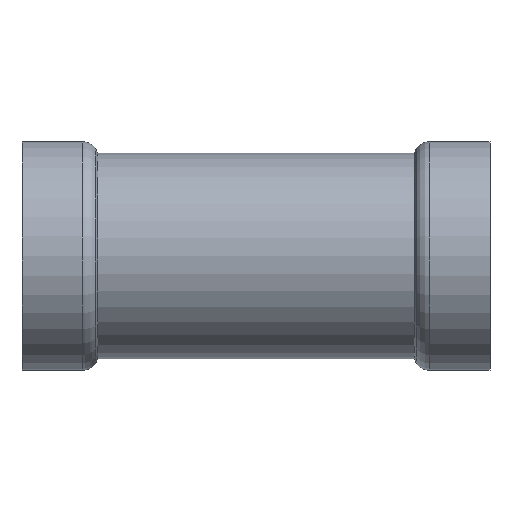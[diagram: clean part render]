
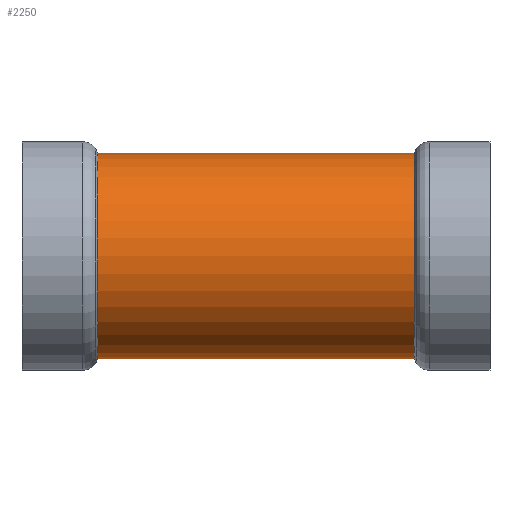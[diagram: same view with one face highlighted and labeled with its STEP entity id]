
A CAD part, top view. The second image highlights one B-rep face of the part: STEP entity #2250.
In plain terms, the highlighted cylindrical face has radius 27.85 mm (diameter 55.7 mm), a partial arc.
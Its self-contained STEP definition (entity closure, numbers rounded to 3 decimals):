
#940=CARTESIAN_POINT('',(153.421,36.979,0.
));
#950=VERTEX_POINT('',#940);
#1130=CARTESIAN_POINT('',(153.421,92.679,
0.));
#1140=VERTEX_POINT('',#1130);
#1170=CARTESIAN_POINT('',(153.421,64.829,
0.));
#1180=DIRECTION('',(-1.,0.,-0.));
#1190=DIRECTION('',(0.,-1.,0.));
#1200=AXIS2_PLACEMENT_3D('',#1170,#1180,#1190);
#1210=CIRCLE('',#1200,27.85);
#1730=CARTESIAN_POINT('',(153.309,36.979,
0.));
#1740=DIRECTION('',(1.,0.,0.));
#1750=VECTOR('',#1740,1.);
#1760=LINE('',#1730,#1750);
#1770=CARTESIAN_POINT('',(67.621,36.979,
0.));
#1780=VERTEX_POINT('',#1770);
#1790=EDGE_CURVE('',#1780,#950,#1760,.T.);
#1820=CARTESIAN_POINT('',(153.309,92.679,
0.));
#1830=DIRECTION('',(1.,0.,0.));
#1840=VECTOR('',#1830,1.);
#1850=LINE('',#1820,#1840);
#1860=CARTESIAN_POINT('',(67.621,92.679,
0.));
#1870=VERTEX_POINT('',#1860);
#1880=EDGE_CURVE('',#1870,#1140,#1850,.T.);
#1900=CARTESIAN_POINT('',(67.621,64.829,
0.));
#1910=DIRECTION('',(-1.,0.,0.));
#1920=DIRECTION('',(0.,-1.,0.));
#1930=AXIS2_PLACEMENT_3D('',#1900,#1910,#1920);
#1940=CIRCLE('',#1930,27.85);
#2050=EDGE_CURVE('',#950,#1140,#1210,.T.);
#2130=CARTESIAN_POINT('',(153.309,64.829,
0.));
#2140=DIRECTION('',(1.,0.,0.));
#2150=DIRECTION('',(0.,-1.,0.));
#2160=AXIS2_PLACEMENT_3D('',#2130,#2140,#2150);
#2170=CYLINDRICAL_SURFACE('',#2160,27.85);
#2180=EDGE_CURVE('',#1780,#1870,#1940,.T.);
#2190=ORIENTED_EDGE('',*,*,#2180,.F.);
#2200=ORIENTED_EDGE('',*,*,#1880,.F.);
#2210=ORIENTED_EDGE('',*,*,#2050,.T.);
#2220=ORIENTED_EDGE('',*,*,#1790,.T.);
#2230=EDGE_LOOP('',(#2220,#2210,#2200,#2190));
#2240=FACE_OUTER_BOUND('',#2230,.T.);
#2250=ADVANCED_FACE('',(#2240),#2170,.T.);
